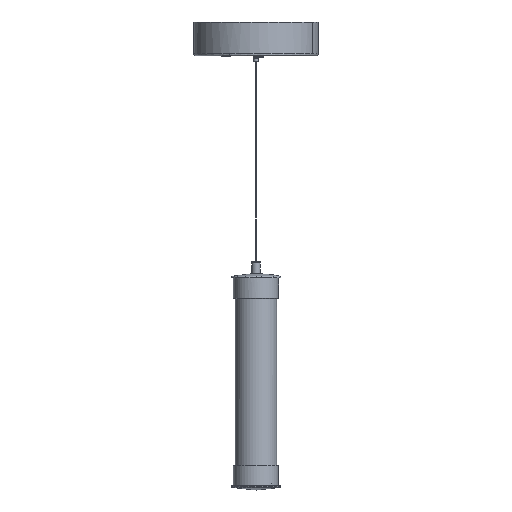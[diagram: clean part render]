
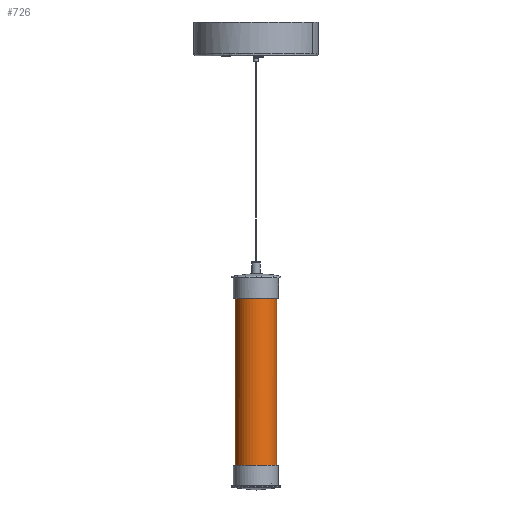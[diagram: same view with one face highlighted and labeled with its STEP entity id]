
A CAD part, front view. The second image highlights one B-rep face of the part: STEP entity #726.
In plain terms, the highlighted cylindrical face has radius 30 mm (diameter 60 mm), a partial arc.
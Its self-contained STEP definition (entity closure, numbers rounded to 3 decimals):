
#726=ADVANCED_FACE('',(#1391),#11116,.T.);
#1391=FACE_OUTER_BOUND('',#2088,.T.);
#2088=EDGE_LOOP('',(#3462,#3463,#3464,#3465));
#3462=ORIENTED_EDGE('',*,*,#6416,.T.);
#3463=ORIENTED_EDGE('',*,*,#6411,.T.);
#3464=ORIENTED_EDGE('',*,*,#6410,.T.);
#3465=ORIENTED_EDGE('',*,*,#6415,.F.);
#6410=EDGE_CURVE('',#9792,#9796,#8006,.T.);
#6411=EDGE_CURVE('',#9789,#9792,#8897,.T.);
#6415=EDGE_CURVE('',#9795,#9796,#8899,.T.);
#6416=EDGE_CURVE('',#9795,#9789,#8009,.T.);
#8006=(
BOUNDED_CURVE()
B_SPLINE_CURVE(2,(#14249,#14250,#14251,#14252,#14253),.UNSPECIFIED.,.F.,
 .F.)
B_SPLINE_CURVE_WITH_KNOTS((3,2,3),(0.,47.124,94.248),
 .UNSPECIFIED.)
CURVE()
GEOMETRIC_REPRESENTATION_ITEM()
RATIONAL_B_SPLINE_CURVE((1.,0.707,1.,0.707,1.))
REPRESENTATION_ITEM('')
);
#8009=(
BOUNDED_CURVE()
B_SPLINE_CURVE(2,(#14270,#14271,#14272,#14273,#14274),.UNSPECIFIED.,.F.,
 .F.)
B_SPLINE_CURVE_WITH_KNOTS((3,2,3),(94.248,141.372,188.496),
 .UNSPECIFIED.)
CURVE()
GEOMETRIC_REPRESENTATION_ITEM()
RATIONAL_B_SPLINE_CURVE((1.,0.707,1.,0.707,1.))
REPRESENTATION_ITEM('')
);
#8897=B_SPLINE_CURVE_WITH_KNOTS('',1,(#14254,#14255),.UNSPECIFIED.,.F.,
 .F.,(2,2),(27.22,298.22),.UNSPECIFIED.);
#8899=B_SPLINE_CURVE_WITH_KNOTS('',1,(#14268,#14269),.UNSPECIFIED.,.F.,
 .F.,(2,2),(27.22,298.22),.UNSPECIFIED.);
#9789=VERTEX_POINT('',#14224);
#9792=VERTEX_POINT('',#14227);
#9795=VERTEX_POINT('',#14230);
#9796=VERTEX_POINT('',#14231);
#11116=CYLINDRICAL_SURFACE('',#11503,30.);
#11503=AXIS2_PLACEMENT_3D('',#14223,#12040,$);
#12040=DIRECTION('',(0.,0.,-1.));
#14223=CARTESIAN_POINT('',(0.,0.,-523.564));
#14224=CARTESIAN_POINT('',(-30.,0.,-388.064));
#14227=CARTESIAN_POINT('',(-30.,0.,-659.064));
#14230=CARTESIAN_POINT('',(30.,0.,-388.064));
#14231=CARTESIAN_POINT('',(30.,0.,-659.064));
#14249=CARTESIAN_POINT('',(-30.,0.,-659.064));
#14250=CARTESIAN_POINT('',(-30.,-30.,-659.064));
#14251=CARTESIAN_POINT('',(0.,-30.,-659.064));
#14252=CARTESIAN_POINT('',(30.,-30.,-659.064));
#14253=CARTESIAN_POINT('',(30.,0.,-659.064));
#14254=CARTESIAN_POINT('',(-30.,0.,-388.064));
#14255=CARTESIAN_POINT('',(-30.,0.,-659.064));
#14268=CARTESIAN_POINT('',(30.,0.,-388.064));
#14269=CARTESIAN_POINT('',(30.,0.,-659.064));
#14270=CARTESIAN_POINT('',(30.,0.,-388.064));
#14271=CARTESIAN_POINT('',(30.,-30.,-388.064));
#14272=CARTESIAN_POINT('',(0.,-30.,-388.064));
#14273=CARTESIAN_POINT('',(-30.,-30.,-388.064));
#14274=CARTESIAN_POINT('',(-30.,0.,-388.064));
